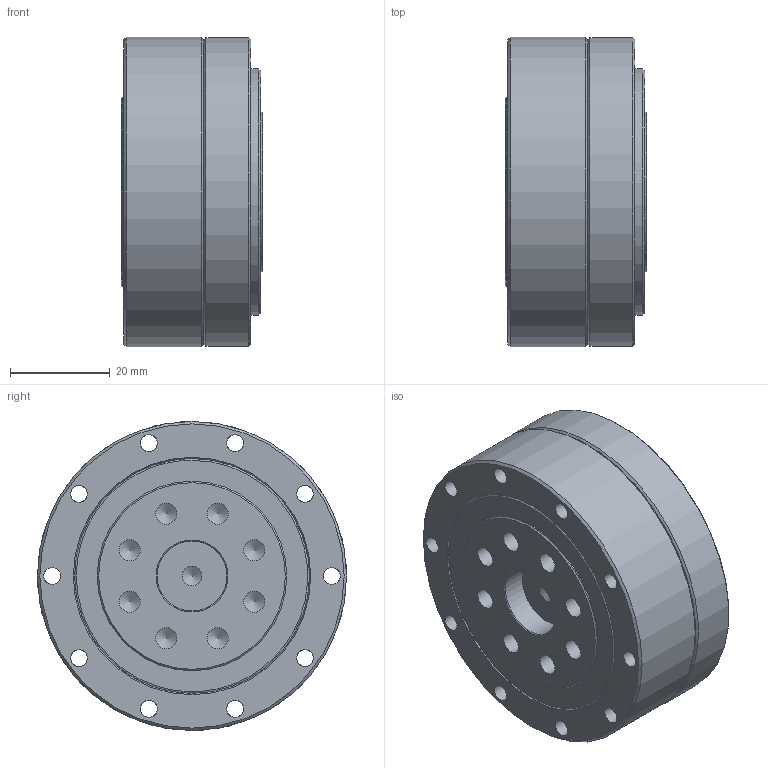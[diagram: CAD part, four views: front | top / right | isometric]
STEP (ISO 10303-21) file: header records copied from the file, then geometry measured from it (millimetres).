
FILE_DESCRIPTION (( 'STEP AP203' ), '1' );
FILE_NAME ('LCD-17-XXX-C-I-ST.STEP', '2025-01-20T02:19:38', ( '' ), ( '' ), 'SwSTEP 2.0', 'SolidWorks 2023', '' );
FILE_SCHEMA (( 'CONFIG_CONTROL_DESIGN' ));
Length unit declared in the file: metre
Products named in the file (1): LCD-17-XXX-C-I-ST
Bounding box: 28.4 x 62 x 62 mm (x, y, z)
Volume: 59483.1 mm3; surface area: 47127.5 mm2
Topology: 27 solids, 27 shells, 747 faces, 1702 edges, 1073 vertices
Faces by surface type: plane 378, cylinder 200, cone 105, bspline 64
Full cylindrical faces by diameter (mm): 1.6 x9, 2 x9, 2.4 x9, 2.5 x4, 3.3 x8, 3.4 x24, 3.8 x9, 4 x8, 4.2 x8, 4.5 x8, 4.8 x5, 7 x8, 9.8 x1, 11 x2, 14 x1, 15 x1, 16 x2, 27 x2, 27.2 x1, 29.4 x1, 30.295 x1, 30.6 x1, 32 x2, 32.53 x2, 33.23 x1, 36 x1, 37.957 x1, 38 x2, 38.79 x1, 39.6 x1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
Entity records: 25405 total; most frequent: CARTESIAN_POINT 9891, DIRECTION 3284, ORIENTED_EDGE 2676, AXIS2_PLACEMENT_3D 1368, EDGE_CURVE 1338, EDGE_LOOP 1212, VERTEX_POINT 994, FACE_OUTER_BOUND 919
